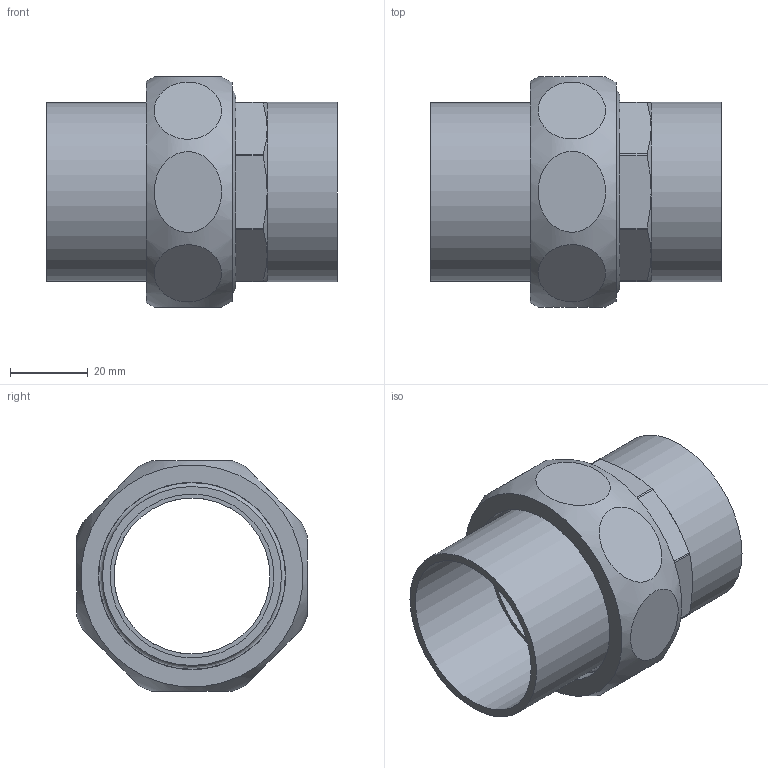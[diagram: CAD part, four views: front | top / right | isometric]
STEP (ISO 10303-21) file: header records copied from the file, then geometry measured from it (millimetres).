
FILE_DESCRIPTION((''),'2;1');
FILE_NAME('\\lg50001\SANHA_Legnica\Engineering\Public\RYSUNKI\SANHA POLSKA\4340\inventor\14340_42(1).stp','2014-08-25T13:22:37',('gomulka'),(''),'Autodesk Inventor 2009','Autodesk Inventor 2009','');
FILE_SCHEMA(('AUTOMOTIVE_DESIGN { 1 0 10303 214 1 1 1 1 }'));
Length unit declared in the file: millimetre
Products named in the file (4): 14340_42(1); 14380_42-134(1); 14381_42-134(2); 14374_134(2)
Assembly tree (3 placements, depth 2):
  14340_42(1)
    14380_42-134(1)
    14381_42-134(2)
    14374_134(2)
Bounding box: 74.47 x 59 x 59 mm (x, y, z)
Volume: 49473.7 mm3; surface area: 33295.8 mm2
Topology: 3 solids, 3 shells, 60 faces, 120 edges, 77 vertices
Faces by surface type: plane 34, cylinder 18, cone 5, bspline 2, torus 1
Full cylindrical faces by diameter (mm): 40 x2, 42 x2, 45.9 x1, 45.95 x1, 48 x1, 50.5 x1, 50.788 x1, 53.746 x1
Entity records: 3003 total; most frequent: CARTESIAN_POINT 1735, DIRECTION 256, ORIENTED_EDGE 198, AXIS2_PLACEMENT_3D 116, EDGE_CURVE 99, EDGE_LOOP 96, VERTEX_POINT 75, FACE_OUTER_BOUND 60
